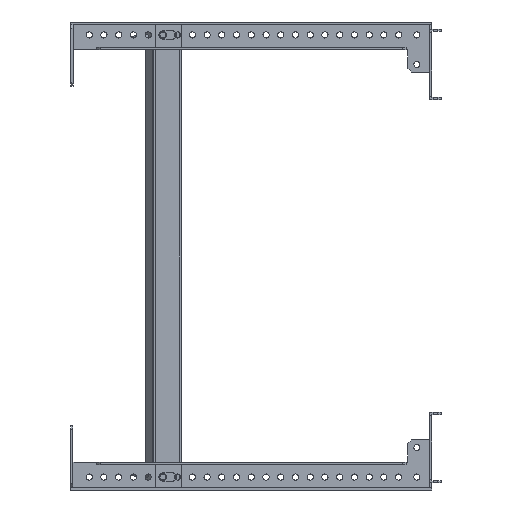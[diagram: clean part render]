
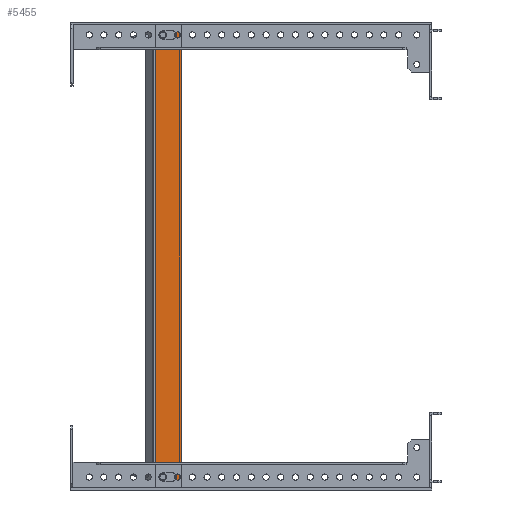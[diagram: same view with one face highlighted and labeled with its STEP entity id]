
A CAD part, front view. The second image highlights one B-rep face of the part: STEP entity #5455.
In plain terms, the highlighted planar face has unit normal (0, -1, 0).
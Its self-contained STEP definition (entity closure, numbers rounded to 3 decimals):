
#194 = EDGE_CURVE ( 'NONE', #15563, #5472, #16721, .T. ) ;
#281 = DIRECTION ( 'NONE',  ( -1., 0., 0. ) ) ;
#395 = VERTEX_POINT ( 'NONE', #1318 ) ;
#400 = VERTEX_POINT ( 'NONE', #13459 ) ;
#905 = DIRECTION ( 'NONE',  ( -1., 0., 0. ) ) ;
#910 = CARTESIAN_POINT ( 'NONE',  ( 1150.77, -254., 100. ) ) ;
#1001 = EDGE_CURVE ( 'NONE', #400, #20755, #4189, .T. ) ;
#1290 = EDGE_CURVE ( 'NONE', #21794, #15563, #6232, .T. ) ;
#1318 = CARTESIAN_POINT ( 'NONE',  ( 1128.304, -254., 297.5 ) ) ;
#1450 = VECTOR ( 'NONE', #9687, 1000. ) ;
#1466 = LINE ( 'NONE', #5567, #14650 ) ;
#1748 = DIRECTION ( 'NONE',  ( 0., -1., 0. ) ) ;
#1770 = LINE ( 'NONE', #13277, #1450 ) ;
#1950 = DIRECTION ( 'NONE',  ( -1., 0., 0. ) ) ;
#1961 = LINE ( 'NONE', #19640, #7752 ) ;
#2187 = AXIS2_PLACEMENT_3D ( 'NONE', #22170, #18071, #10019 ) ;
#2545 = VERTEX_POINT ( 'NONE', #5886 ) ;
#2585 = CARTESIAN_POINT ( 'NONE',  ( 1120.302, -254., -91. ) ) ;
#2597 = CIRCLE ( 'NONE', #14402, 3.5 ) ;
#3057 = CARTESIAN_POINT ( 'NONE',  ( 1128.304, -254., -97.5 ) ) ;
#3073 = EDGE_CURVE ( 'NONE', #15929, #20435, #20798, .T. ) ;
#3241 = CARTESIAN_POINT ( 'NONE',  ( 1128.304, -254., -100.859 ) ) ;
#3873 = CIRCLE ( 'NONE', #2187, 3.5 ) ;
#3917 = CARTESIAN_POINT ( 'NONE',  ( 1112.302, -254., 291. ) ) ;
#3975 = ORIENTED_EDGE ( 'NONE', *, *, #11988, .F. ) ;
#4189 = LINE ( 'NONE', #13824, #13043 ) ;
#5055 = VERTEX_POINT ( 'NONE', #13739 ) ;
#5338 = EDGE_LOOP ( 'NONE', ( #20347, #10877, #19342, #10334, #20082 ) ) ;
#5455 = ADVANCED_FACE ( 'NONE', ( #22826, #10929, #18983 ), #6988, .F. ) ;
#5472 = VERTEX_POINT ( 'NONE', #19371 ) ;
#5508 = ORIENTED_EDGE ( 'NONE', *, *, #5849, .T. ) ;
#5527 = DIRECTION ( 'NONE',  ( -1., 0., 0. ) ) ;
#5567 = CARTESIAN_POINT ( 'NONE',  ( 1112.302, -254., -84. ) ) ;
#5703 = CARTESIAN_POINT ( 'NONE',  ( 1150.146, -254., -97.5 ) ) ;
#5849 = EDGE_CURVE ( 'NONE', #18357, #5055, #1770, .T. ) ;
#5886 = CARTESIAN_POINT ( 'NONE',  ( 1105.802, -254., -97.5 ) ) ;
#6232 = LINE ( 'NONE', #14153, #8017 ) ;
#6988 = PLANE ( 'NONE',  #15407 ) ;
#7215 = ORIENTED_EDGE ( 'NONE', *, *, #23523, .T. ) ;
#7242 = CARTESIAN_POINT ( 'NONE',  ( 1112.302, -254., 284. ) ) ;
#7685 = DIRECTION ( 'NONE',  ( -1., 0., 0. ) ) ;
#7752 = VECTOR ( 'NONE', #13836, 1000. ) ;
#8017 = VECTOR ( 'NONE', #12309, 1000. ) ;
#8394 = ORIENTED_EDGE ( 'NONE', *, *, #13766, .T. ) ;
#8518 = AXIS2_PLACEMENT_3D ( 'NONE', #24455, #12698, #24592 ) ;
#8647 = ORIENTED_EDGE ( 'NONE', *, *, #20694, .T. ) ;
#8715 = AXIS2_PLACEMENT_3D ( 'NONE', #18360, #1748, #281 ) ;
#8896 = EDGE_LOOP ( 'NONE', ( #11894, #3975, #11206, #7215 ) ) ;
#9092 = CARTESIAN_POINT ( 'NONE',  ( 1105.802, -254., 297.5 ) ) ;
#9228 = AXIS2_PLACEMENT_3D ( 'NONE', #23208, #25728, #5527 ) ;
#9348 = DIRECTION ( 'NONE',  ( 1., 0., 0. ) ) ;
#9584 = DIRECTION ( 'NONE',  ( 0., 0., 1. ) ) ;
#9687 = DIRECTION ( 'NONE',  ( 1., 0., 0. ) ) ;
#10019 = DIRECTION ( 'NONE',  ( -1., 0., 0. ) ) ;
#10334 = ORIENTED_EDGE ( 'NONE', *, *, #22734, .F. ) ;
#10410 = DIRECTION ( 'NONE',  ( 0., 1., 0. ) ) ;
#10877 = ORIENTED_EDGE ( 'NONE', *, *, #10967, .F. ) ;
#10929 = FACE_BOUND ( 'NONE', #26074, .T. ) ;
#10967 = EDGE_CURVE ( 'NONE', #20435, #21794, #14016, .T. ) ;
#11206 = ORIENTED_EDGE ( 'NONE', *, *, #22710, .F. ) ;
#11273 = VECTOR ( 'NONE', #7685, 1000. ) ;
#11644 = EDGE_CURVE ( 'NONE', #22932, #395, #1961, .T. ) ;
#11894 = ORIENTED_EDGE ( 'NONE', *, *, #11644, .F. ) ;
#11988 = EDGE_CURVE ( 'NONE', #2545, #22932, #19843, .T. ) ;
#12208 = VERTEX_POINT ( 'NONE', #3057 ) ;
#12309 = DIRECTION ( 'NONE',  ( 1., 0., 0. ) ) ;
#12468 = CARTESIAN_POINT ( 'NONE',  ( 1112.302, -254., -84. ) ) ;
#12525 = DIRECTION ( 'NONE',  ( 0., -1., 0. ) ) ;
#12698 = DIRECTION ( 'NONE',  ( 0., -1., 0. ) ) ;
#13043 = VECTOR ( 'NONE', #1950, 1000. ) ;
#13138 = ORIENTED_EDGE ( 'NONE', *, *, #25720, .T. ) ;
#13277 = CARTESIAN_POINT ( 'NONE',  ( 1112.302, -254., 291. ) ) ;
#13459 = CARTESIAN_POINT ( 'NONE',  ( 1120.302, -254., 284. ) ) ;
#13739 = CARTESIAN_POINT ( 'NONE',  ( 1120.302, -254., 291. ) ) ;
#13766 = EDGE_CURVE ( 'NONE', #18379, #18357, #3873, .T. ) ;
#13824 = CARTESIAN_POINT ( 'NONE',  ( 1112.302, -254., 284. ) ) ;
#13836 = DIRECTION ( 'NONE',  ( 1., 0., 0. ) ) ;
#14016 = CIRCLE ( 'NONE', #8518, 3.5 ) ;
#14153 = CARTESIAN_POINT ( 'NONE',  ( 1112.302, -254., -91. ) ) ;
#14283 = CIRCLE ( 'NONE', #9228, 3.5 ) ;
#14402 = AXIS2_PLACEMENT_3D ( 'NONE', #18997, #22973, #14525 ) ;
#14525 = DIRECTION ( 'NONE',  ( -1., 0., 0. ) ) ;
#14650 = VECTOR ( 'NONE', #17967, 1000. ) ;
#15407 = AXIS2_PLACEMENT_3D ( 'NONE', #910, #10410, #9348 ) ;
#15563 = VERTEX_POINT ( 'NONE', #2585 ) ;
#15929 = VERTEX_POINT ( 'NONE', #12468 ) ;
#16179 = VECTOR ( 'NONE', #18257, 1000. ) ;
#16721 = CIRCLE ( 'NONE', #8715, 3.5 ) ;
#17632 = LINE ( 'NONE', #3241, #19256 ) ;
#17734 = CARTESIAN_POINT ( 'NONE',  ( 1105.802, -254., -97.5 ) ) ;
#17967 = DIRECTION ( 'NONE',  ( -1., 0., 0. ) ) ;
#18071 = DIRECTION ( 'NONE',  ( 0., 1., 0. ) ) ;
#18257 = DIRECTION ( 'NONE',  ( 0., 0., 1. ) ) ;
#18357 = VERTEX_POINT ( 'NONE', #3917 ) ;
#18360 = CARTESIAN_POINT ( 'NONE',  ( 1120.302, -254., -87.5 ) ) ;
#18379 = VERTEX_POINT ( 'NONE', #25653 ) ;
#18983 = FACE_BOUND ( 'NONE', #5338, .T. ) ;
#18997 = CARTESIAN_POINT ( 'NONE',  ( 1120.302, -254., 287.5 ) ) ;
#19256 = VECTOR ( 'NONE', #9584, 1000. ) ;
#19342 = ORIENTED_EDGE ( 'NONE', *, *, #3073, .F. ) ;
#19371 = CARTESIAN_POINT ( 'NONE',  ( 1120.302, -254., -84. ) ) ;
#19640 = CARTESIAN_POINT ( 'NONE',  ( 1105.802, -254., 297.5 ) ) ;
#19843 = LINE ( 'NONE', #17734, #16179 ) ;
#19939 = ORIENTED_EDGE ( 'NONE', *, *, #1001, .T. ) ;
#20082 = ORIENTED_EDGE ( 'NONE', *, *, #194, .F. ) ;
#20347 = ORIENTED_EDGE ( 'NONE', *, *, #1290, .F. ) ;
#20435 = VERTEX_POINT ( 'NONE', #24170 ) ;
#20694 = EDGE_CURVE ( 'NONE', #20755, #18379, #14283, .T. ) ;
#20704 = CARTESIAN_POINT ( 'NONE',  ( 1112.302, -254., -87.5 ) ) ;
#20755 = VERTEX_POINT ( 'NONE', #7242 ) ;
#20798 = CIRCLE ( 'NONE', #23771, 3.5 ) ;
#21794 = VERTEX_POINT ( 'NONE', #24563 ) ;
#22064 = LINE ( 'NONE', #5703, #11273 ) ;
#22170 = CARTESIAN_POINT ( 'NONE',  ( 1112.302, -254., 287.5 ) ) ;
#22710 = EDGE_CURVE ( 'NONE', #12208, #2545, #22064, .T. ) ;
#22734 = EDGE_CURVE ( 'NONE', #5472, #15929, #1466, .T. ) ;
#22826 = FACE_OUTER_BOUND ( 'NONE', #8896, .T. ) ;
#22932 = VERTEX_POINT ( 'NONE', #9092 ) ;
#22973 = DIRECTION ( 'NONE',  ( 0., 1., 0. ) ) ;
#23208 = CARTESIAN_POINT ( 'NONE',  ( 1112.302, -254., 287.5 ) ) ;
#23523 = EDGE_CURVE ( 'NONE', #12208, #395, #17632, .T. ) ;
#23771 = AXIS2_PLACEMENT_3D ( 'NONE', #20704, #12525, #905 ) ;
#24170 = CARTESIAN_POINT ( 'NONE',  ( 1108.802, -254., -87.5 ) ) ;
#24455 = CARTESIAN_POINT ( 'NONE',  ( 1112.302, -254., -87.5 ) ) ;
#24563 = CARTESIAN_POINT ( 'NONE',  ( 1112.302, -254., -91. ) ) ;
#24592 = DIRECTION ( 'NONE',  ( -1., 0., 0. ) ) ;
#25653 = CARTESIAN_POINT ( 'NONE',  ( 1108.802, -254., 287.5 ) ) ;
#25720 = EDGE_CURVE ( 'NONE', #5055, #400, #2597, .T. ) ;
#25728 = DIRECTION ( 'NONE',  ( 0., 1., 0. ) ) ;
#26074 = EDGE_LOOP ( 'NONE', ( #8647, #8394, #5508, #13138, #19939 ) ) ;
